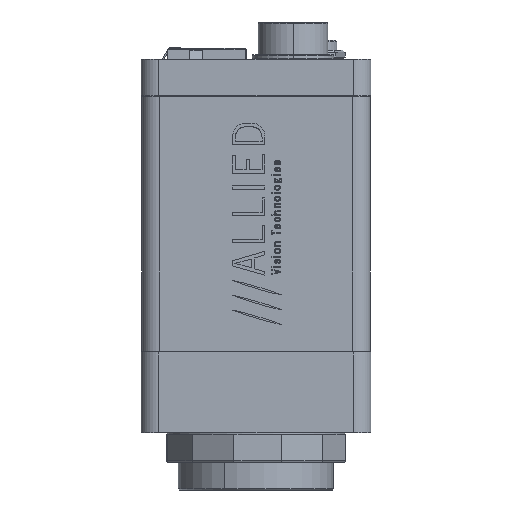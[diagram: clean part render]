
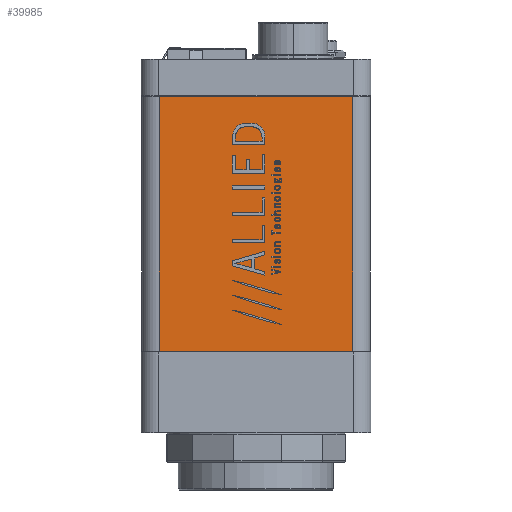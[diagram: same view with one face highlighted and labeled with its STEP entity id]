
A CAD part, left-side view. The second image highlights one B-rep face of the part: STEP entity #39985.
In plain terms, the highlighted planar face has unit normal (-1, 0, 0).
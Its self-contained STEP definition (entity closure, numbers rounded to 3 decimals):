
#1796 = VERTEX_POINT ( 'NONE', #80776 ) ;
#8521 = DIRECTION ( 'NONE',  ( 0., 0., 1. ) ) ;
#8777 = DIRECTION ( 'NONE',  ( -1., 0., 0. ) ) ;
#9021 = CARTESIAN_POINT ( 'NONE',  ( -25.714, 16.558, 108.336 ) ) ;
#9235 = CARTESIAN_POINT ( 'NONE',  ( -25.714, -16.558, 43.65 ) ) ;
#11121 = PLANE ( 'NONE',  #46881 ) ;
#13449 = FACE_OUTER_BOUND ( 'NONE', #33056, .T. ) ;
#14246 = CARTESIAN_POINT ( 'NONE',  ( -25.714, -16.558, 0. ) ) ;
#16885 = DIRECTION ( 'NONE',  ( 0., 0., 1. ) ) ;
#17150 = LINE ( 'NONE', #113737, #55195 ) ;
#19065 = EDGE_CURVE ( 'NONE', #153553, #149070, #153580, .T. ) ;
#23842 = CARTESIAN_POINT ( 'NONE',  ( -25.714, 16.558, 0. ) ) ;
#25813 = EDGE_CURVE ( 'NONE', #149070, #1796, #52167, .T. ) ;
#33056 = EDGE_LOOP ( 'NONE', ( #200516, #201521, #205986, #53193 ) ) ;
#38896 = DIRECTION ( 'NONE',  ( 0., 1., 0. ) ) ;
#38939 = CARTESIAN_POINT ( 'NONE',  ( -25.714, -16.558, 0. ) ) ;
#39985 = ADVANCED_FACE ( 'NONE', ( #13449 ), #11121, .T. ) ;
#46881 = AXIS2_PLACEMENT_3D ( 'NONE', #9021, #8777, #8521 ) ;
#52167 = LINE ( 'NONE', #58379, #80004 ) ;
#53193 = ORIENTED_EDGE ( 'NONE', *, *, #106484, .F. ) ;
#55195 = VECTOR ( 'NONE', #16885, 1000. ) ;
#57919 = CARTESIAN_POINT ( 'NONE',  ( -25.714, 16.558, 43.65 ) ) ;
#58166 = DIRECTION ( 'NONE',  ( 0., 0., 1. ) ) ;
#58379 = CARTESIAN_POINT ( 'NONE',  ( -25.714, 16.558, 108.336 ) ) ;
#63402 = VECTOR ( 'NONE', #38896, 1000. ) ;
#74252 = DIRECTION ( 'NONE',  ( 0., -1., 0. ) ) ;
#80004 = VECTOR ( 'NONE', #58166, 1000. ) ;
#80776 = CARTESIAN_POINT ( 'NONE',  ( -25.714, 16.558, 43.65 ) ) ;
#101360 = LINE ( 'NONE', #57919, #180649 ) ;
#106484 = EDGE_CURVE ( 'NONE', #1796, #148971, #101360, .T. ) ;
#113737 = CARTESIAN_POINT ( 'NONE',  ( -25.714, -16.558, 108.336 ) ) ;
#142031 = EDGE_CURVE ( 'NONE', #153553, #148971, #17150, .T. ) ;
#148971 = VERTEX_POINT ( 'NONE', #9235 ) ;
#149070 = VERTEX_POINT ( 'NONE', #23842 ) ;
#153553 = VERTEX_POINT ( 'NONE', #14246 ) ;
#153580 = LINE ( 'NONE', #38939, #63402 ) ;
#180649 = VECTOR ( 'NONE', #74252, 1000. ) ;
#200516 = ORIENTED_EDGE ( 'NONE', *, *, #25813, .F. ) ;
#201521 = ORIENTED_EDGE ( 'NONE', *, *, #19065, .F. ) ;
#205986 = ORIENTED_EDGE ( 'NONE', *, *, #142031, .T. ) ;
